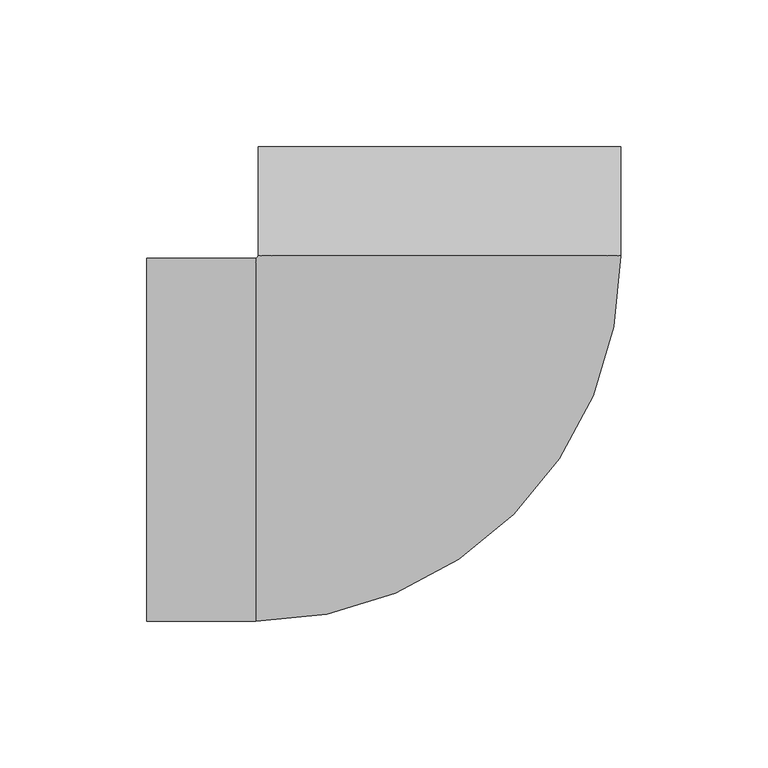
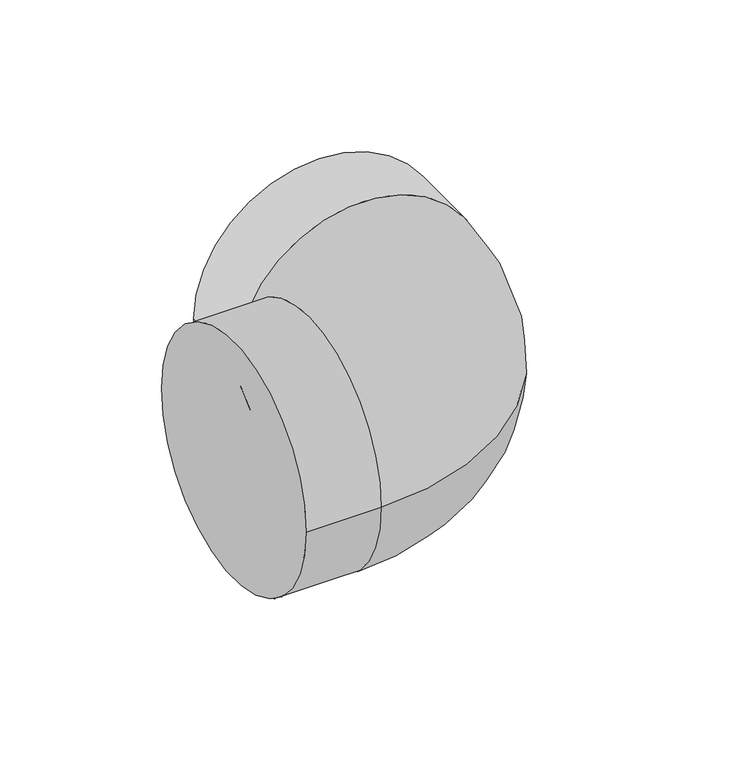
"""IFC4 building model written with IfcOpenShell, lengths in millimetres: pipe fitting geometry, NIRON RED termofusion codo : Estándar."""

from ifc_helpers import new_model, si_unit, point, frame, origin, place, context, project, spatial, circle_curve, ellipse_curve, trimmed, source, transform, mapped, element, save
from ifc_brep_helpers import plane_surface, cylinder_surface, revolved_surface, advanced_brep


def pipe_fitting_eb05bad7(model_context):
    return source(origin(), model_context, "Body", "AdvancedBrep", [
        advanced_brep(
        [(-99.54375, -61.75, 0.0), (-99.54375, 61.75, 0.0), (-62.54375, -61.75, 0.0), (-62.54375, 61.75, 0.0), (-61.75, 62.54375, 0.0), (61.75, 62.54375, 0.0), (0.0, 62.54375, 61.75), (0.0, 62.54375, -61.75), (61.75, 99.54375, 0.0), (-61.75, 99.54375, 0.0)],
        [
            (0, 1, circle_curve(frame((-99.54375, 0.0, 0.0), z_axis=(-1.0, 0.0, 0.0), x_axis=(0.0, 1.0, 0.0)), 61.75)),
            (1, 0, circle_curve(frame((-99.54375, 0.0, 0.0), z_axis=(-1.0, 0.0, 0.0), x_axis=(0.0, 1.0, 0.0)), 61.75)),
            (0, 2),
            (2, 3, circle_curve(frame((-62.54375, 0.0, 0.0), z_axis=(-1.0, 0.0, 0.0), x_axis=(0.0, 1.0, 0.0)), 61.75)),
            (3, 1),
            (3, 2, circle_curve(frame((-62.54375, 0.0, 0.0), z_axis=(-1.0, 0.0, 0.0), x_axis=(0.0, 1.0, 0.0)), 61.75)),
            (4, 3, circle_curve(frame((-62.54375, 62.54375, 0.0), z_axis=(0.0, 0.0, -1.0), x_axis=(0.0, -1.0, 0.0)), 0.79375)),
            (2, 5, circle_curve(frame((-62.54375, 62.54375, 0.0), z_axis=(0.0, 0.0, 1.0), x_axis=(0.0, -1.0, 0.0)), 124.29375)),
            (5, 6, circle_curve(frame((0.0, 62.54375, 0.0), z_axis=(0.0, -1.0, 0.0), x_axis=(-1.0, 0.0, 0.0)), 61.75)),
            (6, 4, circle_curve(frame((0.0, 62.54375, 0.0), z_axis=(0.0, -1.0, 0.0), x_axis=(-1.0, 0.0, 0.0)), 61.75)),
            (4, 7, circle_curve(frame((0.0, 62.54375, 0.0), z_axis=(0.0, -1.0, 0.0), x_axis=(-1.0, 0.0, 0.0)), 61.75)),
            (7, 5, circle_curve(frame((0.0, 62.54375, 0.0), z_axis=(0.0, -1.0, 0.0), x_axis=(-1.0, 0.0, 0.0)), 61.75)),
            (8, 9, circle_curve(frame((0.0, 99.54375, 0.0), z_axis=(0.0, 1.0, 0.0), x_axis=(-1.0, 0.0, 0.0)), 61.75)),
            (9, 8, circle_curve(frame((0.0, 99.54375, 0.0), z_axis=(0.0, 1.0, 0.0), x_axis=(-1.0, 0.0, 0.0)), 61.75)),
            (9, 4),
            (5, 8),
        ],
        [
            plane_surface(frame((-99.54375, 0.0, 0.0), z_axis=(-1.0, 0.0, 0.0), x_axis=(0.0, 0.0, 1.0))),
            cylinder_surface(frame((-99.54375, 0.0, 0.0), z_axis=(-1.0, 0.0, 0.0), x_axis=(0.0, 1.0, 0.0)), 61.75),
            revolved_surface(trimmed(ellipse_curve(frame((-62.54375, 0.0, 0.0), z_axis=(-1.0, 0.0, 0.0), x_axis=(0.0, 1.0, 0.0)), 61.75, 61.75), [point((-62.54375, -61.75, 0.0))], [point((-62.54375, 61.75, 0.0))], True, "CARTESIAN"), (-62.54375, 62.54375, 0.0), (0.0, 0.0, 1.0)),
            revolved_surface(trimmed(ellipse_curve(frame((-62.54375, 0.0, 0.0), z_axis=(-1.0, 0.0, 0.0), x_axis=(0.0, 1.0, 0.0)), 61.75, 61.75), [point((-62.54375, 61.75, 0.0))], [point((-62.54375, -61.75, 0.0))], True, "CARTESIAN"), (-62.54375, 62.54375, 0.0), (0.0, 0.0, 1.0)),
            plane_surface(frame((0.0, 99.54375, 0.0), z_axis=(0.0, 1.0, 0.0), x_axis=(0.0, 0.0, 1.0))),
            cylinder_surface(frame((0.0, 62.54375, 0.0), z_axis=(0.0, -1.0, 0.0), x_axis=(-1.0, 0.0, 0.0)), 61.75),
        ],
        [
            (0, [[1, 2]]),
            (1, [[-1, 3, 4, 5]]),
            (1, [[-2, -5, 6, -3]]),
            (2, [[7, -4, 8, 9, 10]]),
            (3, [[-7, 11, 12, -8, -6]]),
            (4, [[13, 14]]),
            (5, [[-14, 15, -10, -9, 16]]),
            (5, [[-13, -16, -12, -11, -15]]),
        ],
    ),
    ])


if __name__ == "__main__":
    model = new_model("IFC4")
    model_context = context("Model", 3, world=origin())
    ifc_project = project(units=[si_unit("LENGTHUNIT", "METRE", prefix="MILLI")], contexts=[model_context])
    site = spatial("IfcSite", under=ifc_project)
    building = spatial("IfcBuilding", under=site)
    placement = place(None, origin())
    pipe_fitting_shape = pipe_fitting_eb05bad7(model_context)
    element("IfcPipeFitting", 1, ObjectType="NIRON RED termofusion codo : Estándar", at=placement, inside=building, context=model_context, shape_type="MappedRepresentation", body=[
        mapped(pipe_fitting_shape, transform((0.0, 0.0, 0.0), x_axis=(1.0, 0.0, 0.0), y_axis=(0.0, 1.0, 0.0), z_axis=(0.0, 0.0, 1.0))),
    ])
    save(model, "model.ifc")
